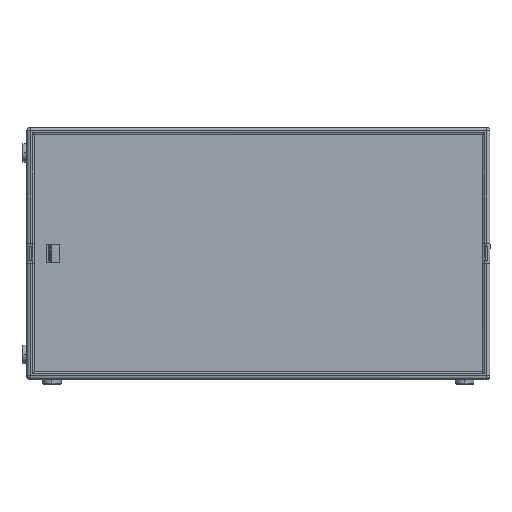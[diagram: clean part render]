
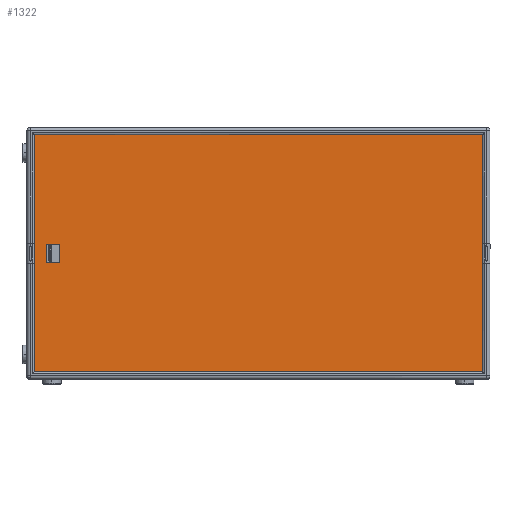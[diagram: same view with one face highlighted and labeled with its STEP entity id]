
A CAD part, top view. The second image highlights one B-rep face of the part: STEP entity #1322.
In plain terms, the highlighted planar face has unit normal (0, 0, 1) as drawn and (0, -1, 0) by its records, which use the part's own axes.
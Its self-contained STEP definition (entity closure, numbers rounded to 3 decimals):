
#1318 = EDGE_LOOP ( 'NONE', ( #1323, #1327, #1377, #1381 ) ) ;
#1322 = ADVANCED_FACE ( 'NONE', ( #12243 ), #12242, .T. ) ;
#1323 = ORIENTED_EDGE ( 'NONE', *, *, #1324, .F. ) ;
#1324 = EDGE_CURVE ( 'NONE', #1325, #1326, #12237, .T. ) ;
#1325 = VERTEX_POINT ( 'NONE', #12233 ) ;
#1326 = VERTEX_POINT ( 'NONE', #12232 ) ;
#1327 = ORIENTED_EDGE ( 'NONE', *, *, #1328, .F. ) ;
#1328 = EDGE_CURVE ( 'NONE', #1329, #1325, #12231, .T. ) ;
#1329 = VERTEX_POINT ( 'NONE', #12227 ) ;
#1377 = ORIENTED_EDGE ( 'NONE', *, *, #1378, .T. ) ;
#1378 = EDGE_CURVE ( 'NONE', #1329, #1379, #12282, .T. ) ;
#1379 = VERTEX_POINT ( 'NONE', #12278 ) ;
#1381 = ORIENTED_EDGE ( 'NONE', *, *, #1382, .F. ) ;
#1382 = EDGE_CURVE ( 'NONE', #1326, #1379, #12277, .T. ) ;
#12227 = CARTESIAN_POINT ( 'NONE',  ( 936.972, -36.377, 15. ) ) ;
#12228 = DIRECTION ( 'NONE',  ( 0., 0., -1. ) ) ;
#12229 = VECTOR ( 'NONE', #12228, 1000. ) ;
#12230 = CARTESIAN_POINT ( 'NONE',  ( 936.972, -36.377, -467. ) ) ;
#12231 = LINE ( 'NONE', #12230, #12229 ) ;
#12232 = CARTESIAN_POINT ( 'NONE',  ( 24.972, -36.377, -467. ) ) ;
#12233 = CARTESIAN_POINT ( 'NONE',  ( 936.972, -36.377, -467. ) ) ;
#12234 = DIRECTION ( 'NONE',  ( -1., 0., 0. ) ) ;
#12235 = VECTOR ( 'NONE', #12234, 1000. ) ;
#12236 = CARTESIAN_POINT ( 'NONE',  ( 480.972, -36.377, -467. ) ) ;
#12237 = LINE ( 'NONE', #12236, #12235 ) ;
#12238 = DIRECTION ( 'NONE',  ( 0., 0., -1. ) ) ;
#12239 = DIRECTION ( 'NONE',  ( 0., -1., 0. ) ) ;
#12240 = CARTESIAN_POINT ( 'NONE',  ( 936.972, -36.377, -467. ) ) ;
#12241 = AXIS2_PLACEMENT_3D ( 'NONE', #12240, #12239, #12238 ) ;
#12242 = PLANE ( 'NONE',  #12241 ) ;
#12243 = FACE_OUTER_BOUND ( 'NONE', #1318, .T. ) ;
#12276 = CARTESIAN_POINT ( 'NONE',  ( 24.972, -36.377, -467. ) ) ;
#12277 = LINE ( 'NONE', #12276, #12341 ) ;
#12278 = CARTESIAN_POINT ( 'NONE',  ( 24.972, -36.377, 15. ) ) ;
#12279 = DIRECTION ( 'NONE',  ( -1., 0., 0. ) ) ;
#12280 = VECTOR ( 'NONE', #12279, 1000. ) ;
#12281 = CARTESIAN_POINT ( 'NONE',  ( 24.972, -36.377, 15. ) ) ;
#12282 = LINE ( 'NONE', #12281, #12280 ) ;
#12340 = DIRECTION ( 'NONE',  ( 0., 0., 1. ) ) ;
#12341 = VECTOR ( 'NONE', #12340, 1000. ) ;
